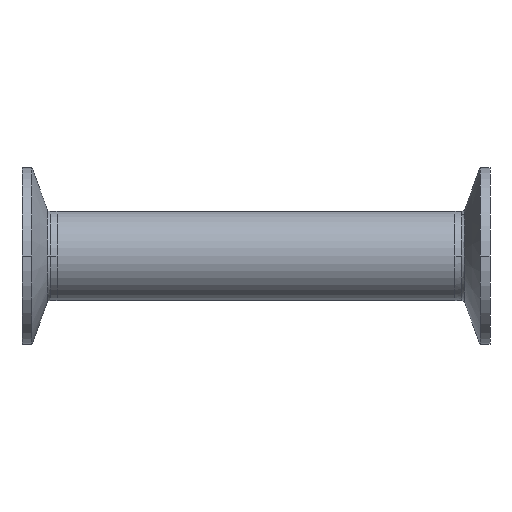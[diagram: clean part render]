
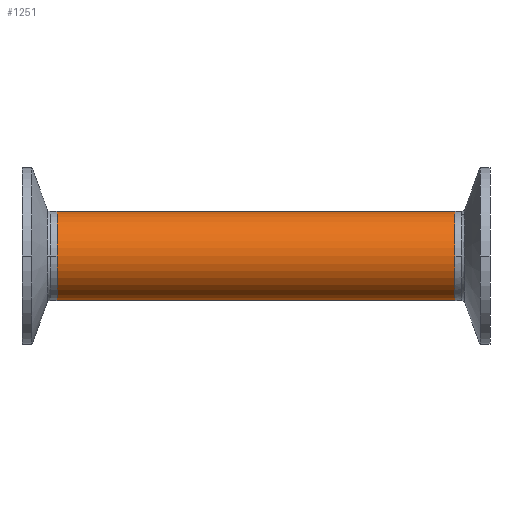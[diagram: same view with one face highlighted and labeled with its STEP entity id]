
A CAD part, front view. The second image highlights one B-rep face of the part: STEP entity #1251.
In plain terms, the highlighted cylindrical face has radius 12.7 mm (diameter 25.4 mm), a partial arc.
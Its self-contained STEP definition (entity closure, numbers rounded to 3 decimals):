
#75 = DIRECTION ( 'NONE',  ( 0., 0., 1. ) ) ;
#82 = VERTEX_POINT ( 'NONE', #1135 ) ;
#383 = VECTOR ( 'NONE', #3629, 1000. ) ;
#405 = VERTEX_POINT ( 'NONE', #645 ) ;
#472 = DIRECTION ( 'NONE',  ( -1., 0., 0. ) ) ;
#479 = LINE ( 'NONE', #1893, #383 ) ;
#564 = AXIS2_PLACEMENT_3D ( 'NONE', #1268, #3306, #1565 ) ;
#645 = CARTESIAN_POINT ( 'NONE',  ( -56.7, 0., -12.7 ) ) ;
#773 = AXIS2_PLACEMENT_3D ( 'NONE', #1294, #2470, #75 ) ;
#913 = EDGE_CURVE ( 'NONE', #1089, #1427, #1940, .T. ) ;
#1089 = VERTEX_POINT ( 'NONE', #2110 ) ;
#1135 = CARTESIAN_POINT ( 'NONE',  ( -56.7, 0., 12.7 ) ) ;
#1152 = ORIENTED_EDGE ( 'NONE', *, *, #913, .T. ) ;
#1180 = EDGE_CURVE ( 'NONE', #82, #405, #3605, .T. ) ;
#1234 = AXIS2_PLACEMENT_3D ( 'NONE', #2620, #2656, #2667 ) ;
#1251 = ADVANCED_FACE ( 'NONE', ( #2846 ), #1879, .T. ) ;
#1268 = CARTESIAN_POINT ( 'NONE',  ( -56.7, 0., 0. ) ) ;
#1277 = EDGE_CURVE ( 'NONE', #1089, #405, #479, .T. ) ;
#1294 = CARTESIAN_POINT ( 'NONE',  ( 92.621, 0., 0. ) ) ;
#1427 = VERTEX_POINT ( 'NONE', #2069 ) ;
#1565 = DIRECTION ( 'NONE',  ( 0., 0., 1. ) ) ;
#1879 = CYLINDRICAL_SURFACE ( 'NONE', #773, 12.7 ) ;
#1893 = CARTESIAN_POINT ( 'NONE',  ( 92.621, 0., -12.7 ) ) ;
#1940 = CIRCLE ( 'NONE', #1234, 12.7 ) ;
#1985 = ORIENTED_EDGE ( 'NONE', *, *, #1180, .T. ) ;
#1996 = ORIENTED_EDGE ( 'NONE', *, *, #3667, .T. ) ;
#2069 = CARTESIAN_POINT ( 'NONE',  ( 56.7, 0., 12.7 ) ) ;
#2110 = CARTESIAN_POINT ( 'NONE',  ( 56.7, 0., -12.7 ) ) ;
#2115 = VECTOR ( 'NONE', #472, 1000. ) ;
#2470 = DIRECTION ( 'NONE',  ( -1., 0., 0. ) ) ;
#2559 = CARTESIAN_POINT ( 'NONE',  ( 92.621, 0., 12.7 ) ) ;
#2620 = CARTESIAN_POINT ( 'NONE',  ( 56.7, 0., 0. ) ) ;
#2656 = DIRECTION ( 'NONE',  ( -1., 0., 0. ) ) ;
#2667 = DIRECTION ( 'NONE',  ( 0., 0., 1. ) ) ;
#2846 = FACE_OUTER_BOUND ( 'NONE', #3477, .T. ) ;
#2897 = LINE ( 'NONE', #2559, #2115 ) ;
#3306 = DIRECTION ( 'NONE',  ( 1., 0., 0. ) ) ;
#3477 = EDGE_LOOP ( 'NONE', ( #3626, #1152, #1996, #1985 ) ) ;
#3605 = CIRCLE ( 'NONE', #564, 12.7 ) ;
#3626 = ORIENTED_EDGE ( 'NONE', *, *, #1277, .F. ) ;
#3629 = DIRECTION ( 'NONE',  ( -1., 0., 0. ) ) ;
#3667 = EDGE_CURVE ( 'NONE', #1427, #82, #2897, .T. ) ;
